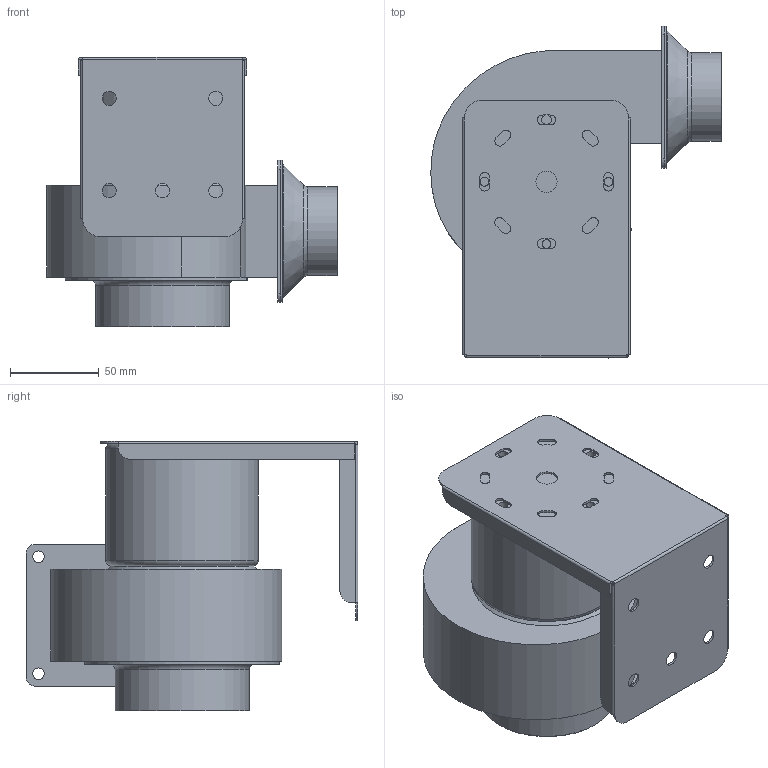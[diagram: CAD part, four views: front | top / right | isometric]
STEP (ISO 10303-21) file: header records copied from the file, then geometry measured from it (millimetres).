
FILE_DESCRIPTION(/* description */ ('Unknown'),/* implementation_level */ '2;1');
FILE_NAME(/* name */ 'CY076B2P-EG 型錄',/* time_stamp */ '2026-03-10T16:44:34+08:00',/* author */ ('Unknown'),/* organization */ ('Unknown'),/* preprocessor_version */ 'ST-DEVELOPER v20',/* originating_system */ 'Solid Edge',/* authorisation */ 'Unknown');
FILE_SCHEMA (('AUTOMOTIVE_DESIGN {1 0 10303 214 3 1 1}'));
Length unit declared in the file: millimetre
Products named in the file (6): CY076B2P-EG 型; CY076-01; CY076-04 + 08; CY076-05; JM076B2P-EG; CY076-07-NEW
Assembly tree (5 placements, depth 2):
  CY076B2P-EG 型
    CY076-01
    CY076-04 + 08
    CY076-05
    JM076B2P-EG
    CY076-07-NEW
Bounding box: 163.75 x 187.2 x 152 mm (x, y, z)
Volume: 1158428.7 mm3; surface area: 185791.2 mm2
Topology: 5 solids, 5 shells, 204 faces, 531 edges, 344 vertices
Faces by surface type: cylinder 119, plane 72, torus 8, cone 3, bspline 2
Full cylindrical faces by diameter (mm): 4.5 x6, 5 x3, 5.5 x1, 6.5 x8, 8 x5, 12 x1, 48 x1, 50 x1, 74 x1, 75.6 x1, 86 x1
Entity records: 6508 total; most frequent: CARTESIAN_POINT 1175, DIRECTION 1149, ORIENTED_EDGE 976, EDGE_CURVE 488, AXIS2_PLACEMENT_3D 457, VERTEX_POINT 341, EDGE_LOOP 319, FACE_BOUND 319
